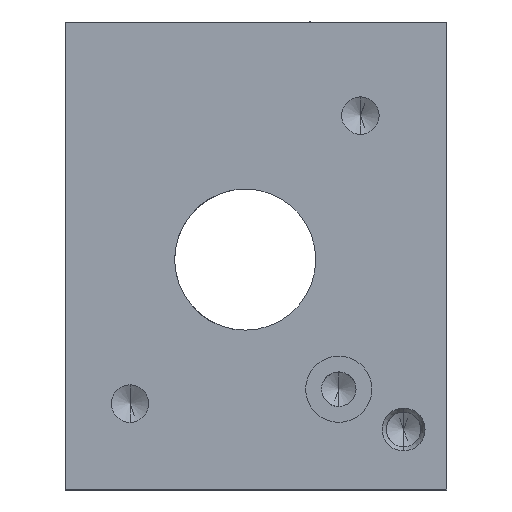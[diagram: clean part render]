
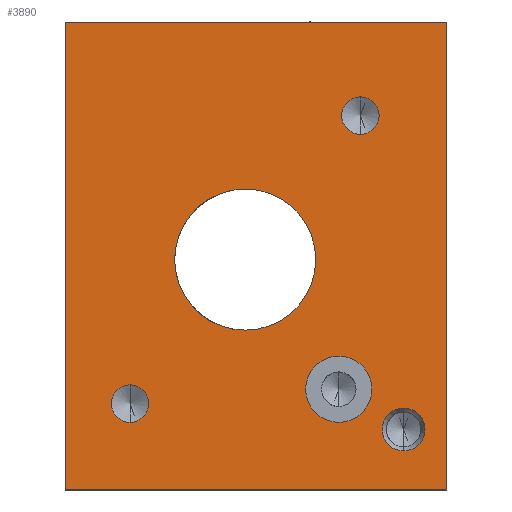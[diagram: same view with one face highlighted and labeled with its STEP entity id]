
A CAD part, front view. The second image highlights one B-rep face of the part: STEP entity #3890.
In plain terms, the highlighted planar face has unit normal (0, -1, 0).
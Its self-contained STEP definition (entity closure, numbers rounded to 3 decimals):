
#2875=AXIS2_PLACEMENT_3D('Circle Axis2P3D',#2873,#2874,$) ;
#2899=AXIS2_PLACEMENT_3D('Circle Axis2P3D',#2897,#2898,$) ;
#2923=AXIS2_PLACEMENT_3D('Circle Axis2P3D',#2921,#2922,$) ;
#2947=AXIS2_PLACEMENT_3D('Circle Axis2P3D',#2945,#2946,$) ;
#2971=AXIS2_PLACEMENT_3D('Circle Axis2P3D',#2969,#2970,$) ;
#2995=AXIS2_PLACEMENT_3D('Circle Axis2P3D',#2993,#2994,$) ;
#3035=AXIS2_PLACEMENT_3D('Circle Axis2P3D',#3033,#3034,$) ;
#3057=AXIS2_PLACEMENT_3D('Circle Axis2P3D',#3055,#3056,$) ;
#3076=AXIS2_PLACEMENT_3D('Circle Axis2P3D',#3074,#3075,$) ;
#3096=AXIS2_PLACEMENT_3D('Circle Axis2P3D',#3094,#3095,$) ;
#3850=AXIS2_PLACEMENT_3D('Plane Axis2P3D',#3847,#3848,#3849) ;
#2870=CARTESIAN_POINT('Vertex',(-8.,-28.1,-11.3)) ;
#2873=CARTESIAN_POINT('Axis2P3D Location',(-8.,-28.1,-10.)) ;
#2877=CARTESIAN_POINT('Vertex',(-8.,-28.1,-8.7)) ;
#2897=CARTESIAN_POINT('Axis2P3D Location',(-8.,-28.1,-10.)) ;
#2918=CARTESIAN_POINT('Vertex',(8.,-28.1,8.7)) ;
#2921=CARTESIAN_POINT('Axis2P3D Location',(8.,-28.1,10.)) ;
#2925=CARTESIAN_POINT('Vertex',(8.,-28.1,11.3)) ;
#2945=CARTESIAN_POINT('Axis2P3D Location',(8.,-28.1,10.)) ;
#2966=CARTESIAN_POINT('Vertex',(6.5,-28.1,-6.7)) ;
#2969=CARTESIAN_POINT('Axis2P3D Location',(6.5,-28.1,-9.)) ;
#2973=CARTESIAN_POINT('Vertex',(6.5,-28.1,-11.3)) ;
#2993=CARTESIAN_POINT('Axis2P3D Location',(6.5,-28.1,-9.)) ;
#3014=CARTESIAN_POINT('Vertex',(11.,-28.1,-10.311)) ;
#3030=CARTESIAN_POINT('Vertex',(11.,-28.1,-13.289)) ;
#3033=CARTESIAN_POINT('Axis2P3D Location',(11.,-28.1,-11.8)) ;
#3055=CARTESIAN_POINT('Axis2P3D Location',(11.,-28.1,-11.8)) ;
#3071=CARTESIAN_POINT('Vertex',(0.,-28.1,4.9)) ;
#3074=CARTESIAN_POINT('Axis2P3D Location',(0.,-28.1,0.)) ;
#3078=CARTESIAN_POINT('Vertex',(0.,-28.1,-4.9)) ;
#3094=CARTESIAN_POINT('Axis2P3D Location',(0.,-28.1,0.)) ;
#3311=CARTESIAN_POINT('Vertex',(-12.5,-28.1,-16.)) ;
#3314=CARTESIAN_POINT('Line Origine',(-12.5,-28.1,0.25)) ;
#3318=CARTESIAN_POINT('Vertex',(-12.5,-28.1,16.5)) ;
#3832=CARTESIAN_POINT('Vertex',(14.,-28.1,-16.)) ;
#3835=CARTESIAN_POINT('Line Origine',(0.75,-28.1,-16.)) ;
#3847=CARTESIAN_POINT('Axis2P3D Location',(0.,-28.1,30.5)) ;
#3852=CARTESIAN_POINT('Line Origine',(0.75,-28.1,16.5)) ;
#3856=CARTESIAN_POINT('Vertex',(14.,-28.1,16.5)) ;
#3859=CARTESIAN_POINT('Line Origine',(14.,-28.1,0.25)) ;
#2874=DIRECTION('Axis2P3D Direction',(0.,-1.,0.)) ;
#2898=DIRECTION('Axis2P3D Direction',(0.,-1.,0.)) ;
#2922=DIRECTION('Axis2P3D Direction',(0.,-1.,0.)) ;
#2946=DIRECTION('Axis2P3D Direction',(0.,-1.,0.)) ;
#2970=DIRECTION('Axis2P3D Direction',(0.,-1.,0.)) ;
#2994=DIRECTION('Axis2P3D Direction',(0.,-1.,0.)) ;
#3034=DIRECTION('Axis2P3D Direction',(0.,-1.,0.)) ;
#3056=DIRECTION('Axis2P3D Direction',(0.,1.,0.)) ;
#3075=DIRECTION('Axis2P3D Direction',(0.,1.,0.)) ;
#3095=DIRECTION('Axis2P3D Direction',(0.,1.,0.)) ;
#3315=DIRECTION('Vector Direction',(0.,0.,1.)) ;
#3836=DIRECTION('Vector Direction',(1.,0.,0.)) ;
#3848=DIRECTION('Axis2P3D Direction',(0.,-1.,0.)) ;
#3849=DIRECTION('Axis2P3D XDirection',(0.,0.,-1.)) ;
#3853=DIRECTION('Vector Direction',(1.,0.,0.)) ;
#3860=DIRECTION('Vector Direction',(0.,0.,1.)) ;
#3316=VECTOR('Line Direction',#3315,1.) ;
#3837=VECTOR('Line Direction',#3836,1.) ;
#3854=VECTOR('Line Direction',#3853,1.) ;
#3861=VECTOR('Line Direction',#3860,1.) ;
#3865=ORIENTED_EDGE('',*,*,#3858,.F.) ;
#3866=ORIENTED_EDGE('',*,*,#3320,.F.) ;
#3867=ORIENTED_EDGE('',*,*,#3839,.F.) ;
#3868=ORIENTED_EDGE('',*,*,#3863,.T.) ;
#3871=ORIENTED_EDGE('',*,*,#3037,.T.) ;
#3872=ORIENTED_EDGE('',*,*,#3059,.T.) ;
#3875=ORIENTED_EDGE('',*,*,#2879,.T.) ;
#3876=ORIENTED_EDGE('',*,*,#2901,.T.) ;
#3879=ORIENTED_EDGE('',*,*,#2927,.T.) ;
#3880=ORIENTED_EDGE('',*,*,#2949,.T.) ;
#3883=ORIENTED_EDGE('',*,*,#2975,.T.) ;
#3884=ORIENTED_EDGE('',*,*,#2997,.T.) ;
#3887=ORIENTED_EDGE('',*,*,#3080,.T.) ;
#3888=ORIENTED_EDGE('',*,*,#3098,.T.) ;
#3873=FACE_BOUND('',#3870,.T.) ;
#3877=FACE_BOUND('',#3874,.T.) ;
#3881=FACE_BOUND('',#3878,.T.) ;
#3885=FACE_BOUND('',#3882,.T.) ;
#3889=FACE_BOUND('',#3886,.T.) ;
#3890=ADVANCED_FACE('\X2\96F64EF651E04F554F53\X0\',(#3869,#3873,#3877,#3881,#3885,#3889),#3851,.T.) ;
#2876=CIRCLE('generated circle',#2875,1.3) ;
#2900=CIRCLE('generated circle',#2899,1.3) ;
#2924=CIRCLE('generated circle',#2923,1.3) ;
#2948=CIRCLE('generated circle',#2947,1.3) ;
#2972=CIRCLE('generated circle',#2971,2.3) ;
#2996=CIRCLE('generated circle',#2995,2.3) ;
#3036=CIRCLE('generated circle',#3035,1.489) ;
#3058=CIRCLE('generated circle',#3057,1.489) ;
#3077=CIRCLE('generated circle',#3076,4.9) ;
#3097=CIRCLE('generated circle',#3096,4.9) ;
#2879=EDGE_CURVE('',#2878,#2871,#2876,.F.) ;
#2901=EDGE_CURVE('',#2871,#2878,#2900,.F.) ;
#2927=EDGE_CURVE('',#2926,#2919,#2924,.F.) ;
#2949=EDGE_CURVE('',#2919,#2926,#2948,.F.) ;
#2975=EDGE_CURVE('',#2974,#2967,#2972,.F.) ;
#2997=EDGE_CURVE('',#2967,#2974,#2996,.F.) ;
#3037=EDGE_CURVE('',#3015,#3031,#3036,.F.) ;
#3059=EDGE_CURVE('',#3031,#3015,#3058,.T.) ;
#3080=EDGE_CURVE('',#3079,#3072,#3077,.T.) ;
#3098=EDGE_CURVE('',#3072,#3079,#3097,.T.) ;
#3320=EDGE_CURVE('',#3312,#3319,#3317,.T.) ;
#3839=EDGE_CURVE('',#3833,#3312,#3838,.F.) ;
#3858=EDGE_CURVE('',#3319,#3857,#3855,.T.) ;
#3863=EDGE_CURVE('',#3833,#3857,#3862,.T.) ;
#3864=EDGE_LOOP('',(#3865,#3866,#3867,#3868)) ;
#3870=EDGE_LOOP('',(#3871,#3872)) ;
#3874=EDGE_LOOP('',(#3875,#3876)) ;
#3878=EDGE_LOOP('',(#3879,#3880)) ;
#3882=EDGE_LOOP('',(#3883,#3884)) ;
#3886=EDGE_LOOP('',(#3887,#3888)) ;
#3869=FACE_OUTER_BOUND('',#3864,.T.) ;
#3317=LINE('Line',#3314,#3316) ;
#3838=LINE('Line',#3835,#3837) ;
#3855=LINE('Line',#3852,#3854) ;
#3862=LINE('Line',#3859,#3861) ;
#3851=PLANE('Plane',#3850) ;
#2871=VERTEX_POINT('',#2870) ;
#2878=VERTEX_POINT('',#2877) ;
#2919=VERTEX_POINT('',#2918) ;
#2926=VERTEX_POINT('',#2925) ;
#2967=VERTEX_POINT('',#2966) ;
#2974=VERTEX_POINT('',#2973) ;
#3015=VERTEX_POINT('',#3014) ;
#3031=VERTEX_POINT('',#3030) ;
#3072=VERTEX_POINT('',#3071) ;
#3079=VERTEX_POINT('',#3078) ;
#3312=VERTEX_POINT('',#3311) ;
#3319=VERTEX_POINT('',#3318) ;
#3833=VERTEX_POINT('',#3832) ;
#3857=VERTEX_POINT('',#3856) ;
